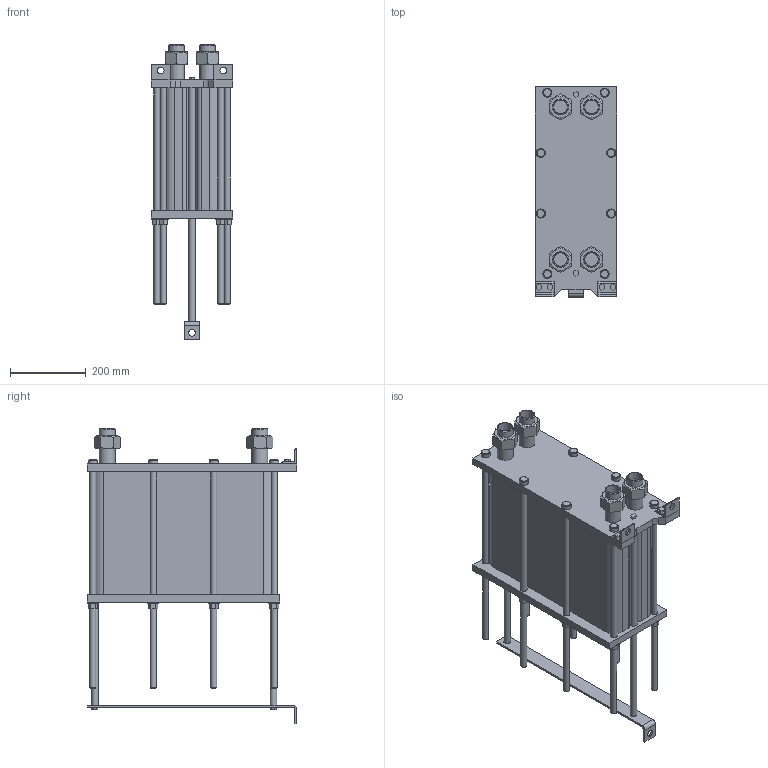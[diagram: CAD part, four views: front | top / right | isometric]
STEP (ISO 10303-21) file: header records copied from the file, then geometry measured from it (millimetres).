
FILE_DESCRIPTION(/* description */ (''),/* implementation_level */ '2;1');
FILE_NAME(/* name */ 'C:\Users\zhuro\Desktop\ENCO\TO\ЭН-004\ЭН-0,5-004-105-1.stp',/* time_stamp */ '2022-06-06T10:52:54+03:00',/* author */ ('zhuro'),/* organization */ (''),/* preprocessor_version */ 'ST-DEVELOPER v18.1',/* originating_system */ 'Autodesk Inventor 2022',/* authorisation */ '');
FILE_SCHEMA (('AUTOMOTIVE_DESIGN { 1 0 10303 214 3 1 1 }'));
Length unit declared in the file: millimetre
Products named in the file (1): ЭН-0,5-004-105-1
Bounding box: 216 x 555 x 781 mm (x, y, z)
Volume: 30183341.2 mm3; surface area: 1663439.2 mm2
Topology: 40 solids, 40 shells, 403 faces, 865 edges, 574 vertices
Faces by surface type: plane 272, cylinder 103, cone 28
Full cylindrical faces by diameter (mm): 10 x4, 16 x16, 18 x29, 20 x2, 24 x8, 28 x8, 36.3 x5, 42.3 x9
Entity records: 11137 total; most frequent: CARTESIAN_POINT 1939, DIRECTION 1879, ORIENTED_EDGE 1730, EDGE_CURVE 865, AXIS2_PLACEMENT_3D 658, VERTEX_POINT 574, LINE 563, VECTOR 563
